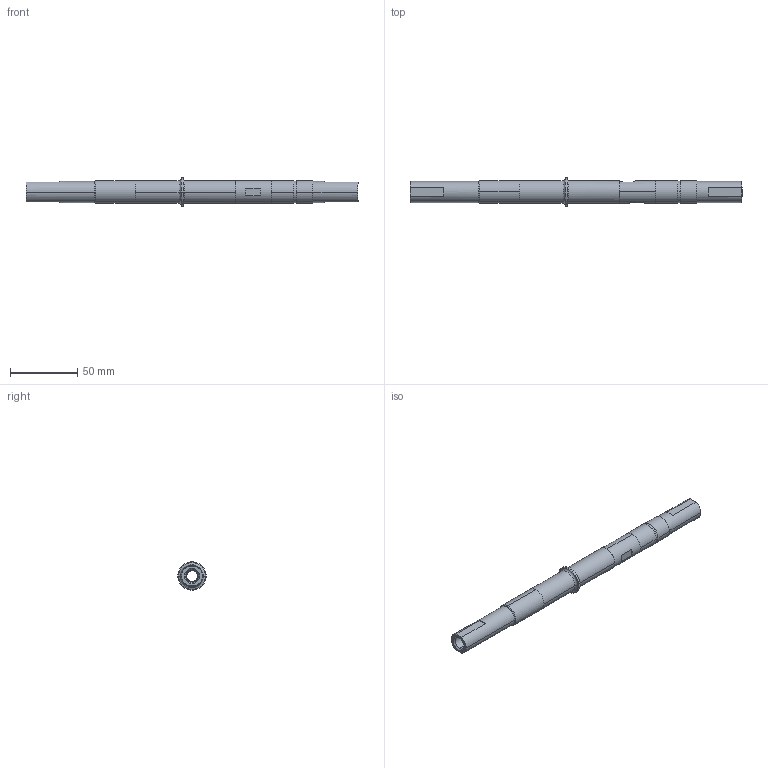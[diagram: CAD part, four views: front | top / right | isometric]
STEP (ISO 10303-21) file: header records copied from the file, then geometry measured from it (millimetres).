
FILE_DESCRIPTION (( 'STEP AP214' ), '1' );
FILE_NAME ('K005-016A-M01A ¶b¤ß.STEP', '2026-09-21T06:35:19', ( '' ), ( '' ), 'SwSTEP 2.0', 'SolidWorks 2014', '' );
FILE_SCHEMA (( 'AUTOMOTIVE_DESIGN' ));
Length unit declared in the file: millimetre
Products named in the file (1): K005-016A-M01A 軸心
Bounding box: 247 x 21 x 21 mm (x, y, z)
Volume: 38873.7 mm3; surface area: 19787.5 mm2
Topology: 1 solids, 1 shells, 85 faces, 198 edges, 122 vertices
Faces by surface type: cylinder 31, plane 30, torus 12, cone 12
Entity records: 2566 total; most frequent: CARTESIAN_POINT 540, DIRECTION 445, ORIENTED_EDGE 396, EDGE_CURVE 198, AXIS2_PLACEMENT_3D 187, VERTEX_POINT 122, CIRCLE 101, EDGE_LOOP 96
